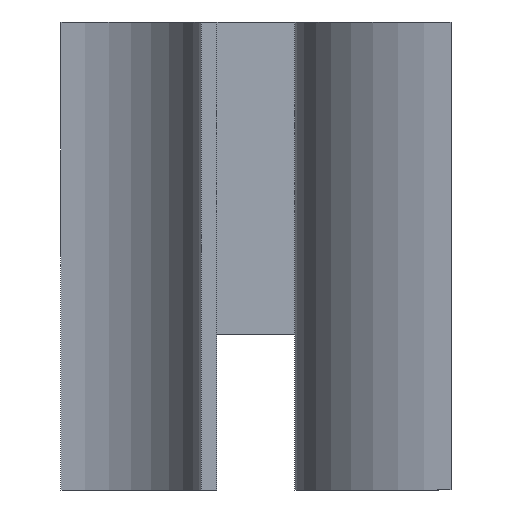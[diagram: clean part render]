
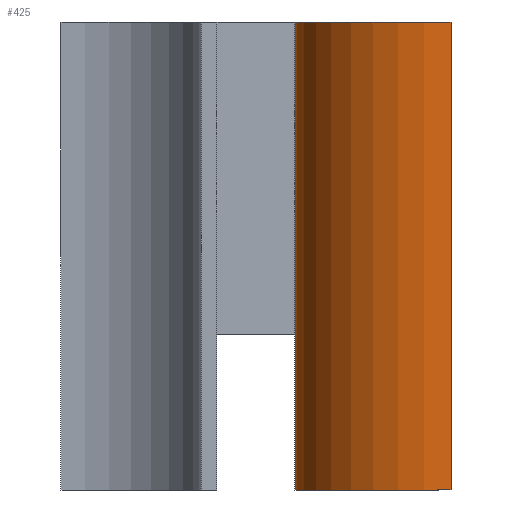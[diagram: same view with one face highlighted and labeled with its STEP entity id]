
A CAD part, left-side view. The second image highlights one B-rep face of the part: STEP entity #425.
In plain terms, the highlighted cylindrical face has radius 5 mm (diameter 10 mm), a partial arc.
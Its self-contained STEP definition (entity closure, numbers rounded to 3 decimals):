
#389 = EDGE_CURVE('',#390,#392,#394,.T.);
#390 = VERTEX_POINT('',#391);
#391 = CARTESIAN_POINT('',(35.,7.5,0.));
#392 = VERTEX_POINT('',#393);
#393 = CARTESIAN_POINT('',(35.,7.5,15.));
#394 = LINE('',#395,#396);
#395 = CARTESIAN_POINT('',(35.,7.5,0.));
#396 = VECTOR('',#397,1.);
#397 = DIRECTION('',(0.,0.,1.));
#425 = ADVANCED_FACE('',(#426),#453,.T.);
#426 = FACE_BOUND('',#427,.F.);
#427 = EDGE_LOOP('',(#428,#429,#438,#446));
#428 = ORIENTED_EDGE('',*,*,#389,.T.);
#429 = ORIENTED_EDGE('',*,*,#430,.T.);
#430 = EDGE_CURVE('',#392,#431,#433,.T.);
#431 = VERTEX_POINT('',#432);
#432 = CARTESIAN_POINT('',(45.,7.5,15.));
#433 = CIRCLE('',#434,5.);
#434 = AXIS2_PLACEMENT_3D('',#435,#436,#437);
#435 = CARTESIAN_POINT('',(40.,7.5,15.));
#436 = DIRECTION('',(0.,0.,1.));
#437 = DIRECTION('',(1.,0.,0.));
#438 = ORIENTED_EDGE('',*,*,#439,.F.);
#439 = EDGE_CURVE('',#440,#431,#442,.T.);
#440 = VERTEX_POINT('',#441);
#441 = CARTESIAN_POINT('',(45.,7.5,0.));
#442 = LINE('',#443,#444);
#443 = CARTESIAN_POINT('',(45.,7.5,0.));
#444 = VECTOR('',#445,1.);
#445 = DIRECTION('',(0.,0.,1.));
#446 = ORIENTED_EDGE('',*,*,#447,.F.);
#447 = EDGE_CURVE('',#390,#440,#448,.T.);
#448 = CIRCLE('',#449,5.);
#449 = AXIS2_PLACEMENT_3D('',#450,#451,#452);
#450 = CARTESIAN_POINT('',(40.,7.5,0.));
#451 = DIRECTION('',(0.,0.,1.));
#452 = DIRECTION('',(1.,0.,0.));
#453 = CYLINDRICAL_SURFACE('',#454,5.);
#454 = AXIS2_PLACEMENT_3D('',#455,#456,#457);
#455 = CARTESIAN_POINT('',(40.,7.5,0.));
#456 = DIRECTION('',(-0.,-0.,-1.));
#457 = DIRECTION('',(1.,0.,0.));
